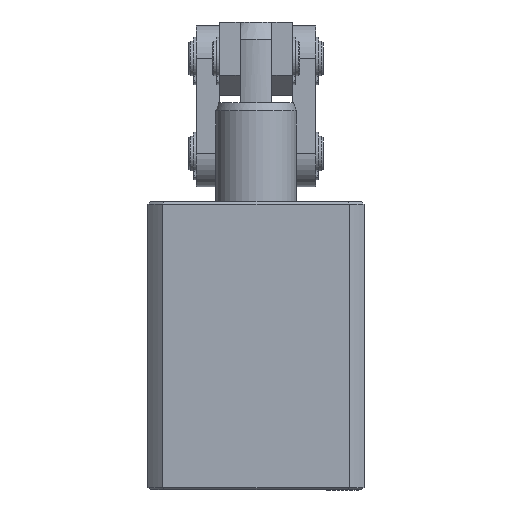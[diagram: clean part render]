
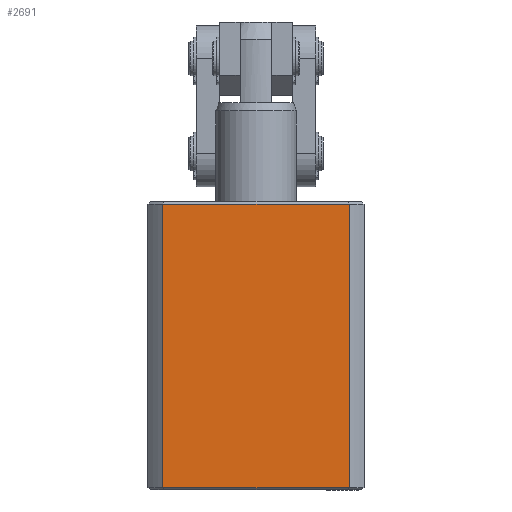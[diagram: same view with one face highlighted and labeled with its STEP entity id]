
A CAD part, left-side view. The second image highlights one B-rep face of the part: STEP entity #2691.
In plain terms, the highlighted planar face has unit normal (-1, 0, 0).
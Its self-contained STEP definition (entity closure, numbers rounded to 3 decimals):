
#305=PLANE('',#2999);
#428=LINE('',#4355,#596);
#433=LINE('',#4388,#601);
#434=LINE('',#4395,#602);
#435=LINE('',#4397,#603);
#596=VECTOR('',#3457,1000.);
#601=VECTOR('',#3488,1000.);
#602=VECTOR('',#3497,1000.);
#603=VECTOR('',#3498,1000.);
#871=ORIENTED_EDGE('',*,*,#1496,.T.);
#872=ORIENTED_EDGE('',*,*,#1481,.T.);
#873=ORIENTED_EDGE('',*,*,#1493,.F.);
#874=ORIENTED_EDGE('',*,*,#1497,.T.);
#1481=EDGE_CURVE('',#1808,#1802,#428,.T.);
#1493=EDGE_CURVE('',#1815,#1802,#433,.T.);
#1496=EDGE_CURVE('',#1817,#1808,#434,.T.);
#1497=EDGE_CURVE('',#1815,#1817,#435,.T.);
#1802=VERTEX_POINT('',#4327);
#1808=VERTEX_POINT('',#4356);
#1815=VERTEX_POINT('',#4389);
#1817=VERTEX_POINT('',#4396);
#2064=EDGE_LOOP('',(#871,#872,#873,#874));
#2358=FACE_BOUND('',#2064,.T.);
#2691=ADVANCED_FACE('',(#2358),#305,.T.);
#2999=AXIS2_PLACEMENT_3D('',#4394,#3495,#3496);
#3457=DIRECTION('',(0.,1.,0.));
#3488=DIRECTION('',(0.,0.,1.));
#3495=DIRECTION('',(-1.,0.,0.));
#3496=DIRECTION('',(0.,-1.,0.));
#3497=DIRECTION('',(0.,0.,1.));
#3498=DIRECTION('',(0.,-1.,0.));
#4327=CARTESIAN_POINT('',(-37.5,32.311,99.2));
#4355=CARTESIAN_POINT('',(-37.5,32.311,99.2));
#4356=CARTESIAN_POINT('',(-37.5,-32.311,99.2));
#4388=CARTESIAN_POINT('',(-37.5,32.311,0.));
#4389=CARTESIAN_POINT('',(-37.5,32.311,0.8));
#4394=CARTESIAN_POINT('',(-37.5,32.311,0.));
#4395=CARTESIAN_POINT('',(-37.5,-32.311,0.));
#4396=CARTESIAN_POINT('',(-37.5,-32.311,0.8));
#4397=CARTESIAN_POINT('',(-37.5,-32.311,0.8));
